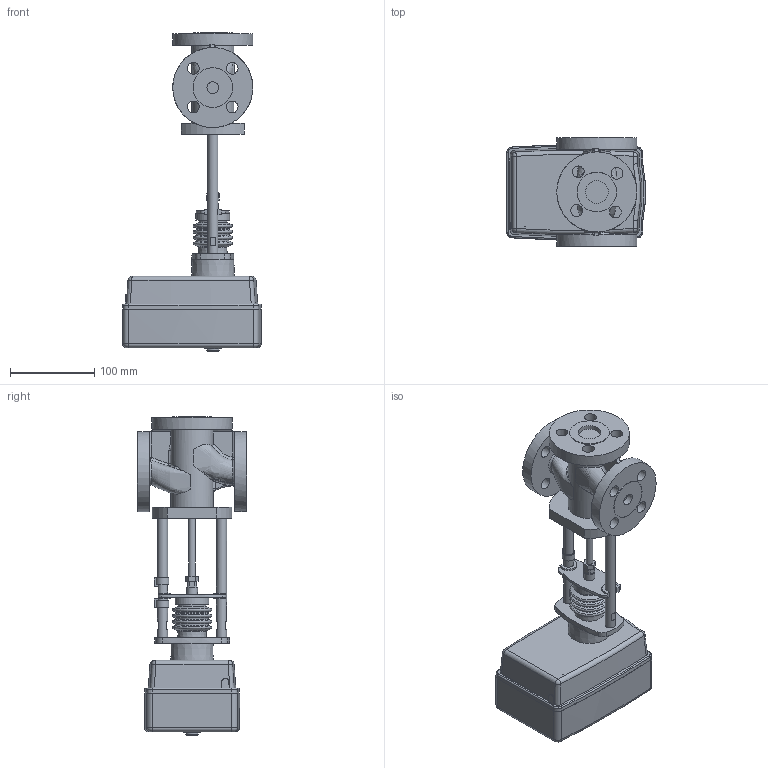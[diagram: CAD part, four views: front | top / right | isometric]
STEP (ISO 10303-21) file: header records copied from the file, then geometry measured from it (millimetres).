
FILE_DESCRIPTION(/* description */ ('Unknown'),/* implementation_level */ '2;1');
FILE_NAME(/* name */ 'TRV-3-15-101(модель)',/* time_stamp */ '2021-11-23T14:27:51+03:00',/* author */ ('Unknown'),/* organization */ ('Unknown'),/* preprocessor_version */ 'ST-DEVELOPER v16.7',/* originating_system */ 'DEX',/* authorisation */ $);
FILE_SCHEMA (('AUTOMOTIVE_DESIGN {1 0 10303 214 3 1 1}'));
Length unit declared in the file: millimetre
Products named in the file (1): TRV-3-15-101(斁麧錪)
Bounding box: 164.51 x 130 x 377.9 mm (x, y, z)
Volume: 2220195.3 mm3; surface area: 204390.4 mm2
Topology: 1 solids, 1 shells, 402 faces, 1050 edges, 662 vertices
Faces by surface type: plane 175, cylinder 103, bspline 56, torus 38, cone 22, sphere 8
Full cylindrical faces by diameter (mm): 8 x1, 12.002 x4, 13 x1, 14 x14, 15 x1, 27 x1, 33.4 x1, 33.972 x1, 40 x1, 47 x3, 50.1 x1, 95 x3
Entity records: 18762 total; most frequent: CARTESIAN_POINT 6844, ORIENTED_EDGE 1890, DIRECTION 1774, EDGE_CURVE 945, AXIS2_PLACEMENT_3D 692, VERTEX_POINT 624, EDGE_LOOP 513, FACE_BOUND 513
